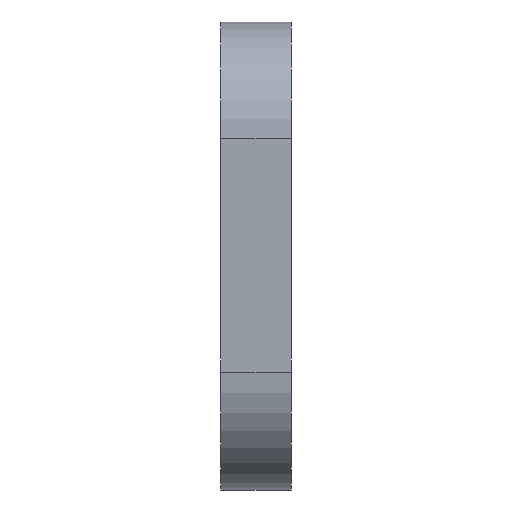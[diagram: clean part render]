
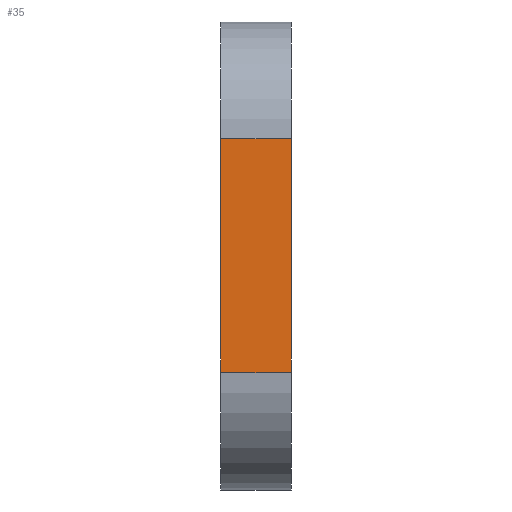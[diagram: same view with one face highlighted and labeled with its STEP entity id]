
A CAD part, left-side view. The second image highlights one B-rep face of the part: STEP entity #35.
In plain terms, the highlighted planar face has unit normal (-1, 0, 0).
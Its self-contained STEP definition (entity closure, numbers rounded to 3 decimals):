
#35 = ADVANCED_FACE('',(#36),#50,.T.);
#36 = FACE_BOUND('',#37,.T.);
#37 = EDGE_LOOP('',(#38,#73,#101,#129));
#38 = ORIENTED_EDGE('',*,*,#39,.T.);
#39 = EDGE_CURVE('',#40,#42,#44,.T.);
#40 = VERTEX_POINT('',#41);
#41 = CARTESIAN_POINT('',(-8.,-14.7,-12.));
#42 = VERTEX_POINT('',#43);
#43 = CARTESIAN_POINT('',(-8.,-15.9,-12.));
#44 = SURFACE_CURVE('',#45,(#49,#61),.PCURVE_S1.);
#45 = LINE('',#46,#47);
#46 = CARTESIAN_POINT('',(-8.,-14.7,-12.));
#47 = VECTOR('',#48,1.);
#48 = DIRECTION('',(0.,-1.,0.));
#49 = PCURVE('',#50,#55);
#50 = PLANE('',#51);
#51 = AXIS2_PLACEMENT_3D('',#52,#53,#54);
#52 = CARTESIAN_POINT('',(-8.,-14.7,-12.));
#53 = DIRECTION('',(-1.,0.,0.));
#54 = DIRECTION('',(0.,0.,1.));
#55 = DEFINITIONAL_REPRESENTATION('',(#56),#60);
#56 = LINE('',#57,#58);
#57 = CARTESIAN_POINT('',(0.,0.));
#58 = VECTOR('',#59,1.);
#59 = DIRECTION('',(0.,-1.));
#60 = ( GEOMETRIC_REPRESENTATION_CONTEXT(2) 
PARAMETRIC_REPRESENTATION_CONTEXT() REPRESENTATION_CONTEXT('2D SPACE',''
  ) );
#61 = PCURVE('',#62,#67);
#62 = CYLINDRICAL_SURFACE('',#63,2.);
#63 = AXIS2_PLACEMENT_3D('',#64,#65,#66);
#64 = CARTESIAN_POINT('',(-6.,-14.7,-12.));
#65 = DIRECTION('',(0.,1.,0.));
#66 = DIRECTION('',(1.,0.,0.));
#67 = DEFINITIONAL_REPRESENTATION('',(#68),#72);
#68 = LINE('',#69,#70);
#69 = CARTESIAN_POINT('',(3.142,0.));
#70 = VECTOR('',#71,1.);
#71 = DIRECTION('',(-0.,-1.));
#72 = ( GEOMETRIC_REPRESENTATION_CONTEXT(2) 
PARAMETRIC_REPRESENTATION_CONTEXT() REPRESENTATION_CONTEXT('2D SPACE',''
  ) );
#73 = ORIENTED_EDGE('',*,*,#74,.T.);
#74 = EDGE_CURVE('',#42,#75,#77,.T.);
#75 = VERTEX_POINT('',#76);
#76 = CARTESIAN_POINT('',(-8.,-15.9,-8.));
#77 = SURFACE_CURVE('',#78,(#82,#89),.PCURVE_S1.);
#78 = LINE('',#79,#80);
#79 = CARTESIAN_POINT('',(-8.,-15.9,-10.));
#80 = VECTOR('',#81,1.);
#81 = DIRECTION('',(0.,0.,1.));
#82 = PCURVE('',#50,#83);
#83 = DEFINITIONAL_REPRESENTATION('',(#84),#88);
#84 = LINE('',#85,#86);
#85 = CARTESIAN_POINT('',(2.,-1.2));
#86 = VECTOR('',#87,1.);
#87 = DIRECTION('',(1.,0.));
#88 = ( GEOMETRIC_REPRESENTATION_CONTEXT(2) 
PARAMETRIC_REPRESENTATION_CONTEXT() REPRESENTATION_CONTEXT('2D SPACE',''
  ) );
#89 = PCURVE('',#90,#95);
#90 = PLANE('',#91);
#91 = AXIS2_PLACEMENT_3D('',#92,#93,#94);
#92 = CARTESIAN_POINT('',(0.,-15.9,-10.));
#93 = DIRECTION('',(0.,-1.,0.));
#94 = DIRECTION('',(1.,0.,0.));
#95 = DEFINITIONAL_REPRESENTATION('',(#96),#100);
#96 = LINE('',#97,#98);
#97 = CARTESIAN_POINT('',(-8.,0.));
#98 = VECTOR('',#99,1.);
#99 = DIRECTION('',(0.,1.));
#100 = ( GEOMETRIC_REPRESENTATION_CONTEXT(2) 
PARAMETRIC_REPRESENTATION_CONTEXT() REPRESENTATION_CONTEXT('2D SPACE',''
  ) );
#101 = ORIENTED_EDGE('',*,*,#102,.F.);
#102 = EDGE_CURVE('',#103,#75,#105,.T.);
#103 = VERTEX_POINT('',#104);
#104 = CARTESIAN_POINT('',(-8.,-14.7,-8.));
#105 = SURFACE_CURVE('',#106,(#110,#117),.PCURVE_S1.);
#106 = LINE('',#107,#108);
#107 = CARTESIAN_POINT('',(-8.,-14.7,-8.));
#108 = VECTOR('',#109,1.);
#109 = DIRECTION('',(0.,-1.,0.));
#110 = PCURVE('',#50,#111);
#111 = DEFINITIONAL_REPRESENTATION('',(#112),#116);
#112 = LINE('',#113,#114);
#113 = CARTESIAN_POINT('',(4.,0.));
#114 = VECTOR('',#115,1.);
#115 = DIRECTION('',(0.,-1.));
#116 = ( GEOMETRIC_REPRESENTATION_CONTEXT(2) 
PARAMETRIC_REPRESENTATION_CONTEXT() REPRESENTATION_CONTEXT('2D SPACE',''
  ) );
#117 = PCURVE('',#118,#123);
#118 = CYLINDRICAL_SURFACE('',#119,2.);
#119 = AXIS2_PLACEMENT_3D('',#120,#121,#122);
#120 = CARTESIAN_POINT('',(-6.,-14.7,-8.));
#121 = DIRECTION('',(0.,1.,0.));
#122 = DIRECTION('',(1.,0.,0.));
#123 = DEFINITIONAL_REPRESENTATION('',(#124),#128);
#124 = LINE('',#125,#126);
#125 = CARTESIAN_POINT('',(3.142,0.));
#126 = VECTOR('',#127,1.);
#127 = DIRECTION('',(-0.,-1.));
#128 = ( GEOMETRIC_REPRESENTATION_CONTEXT(2) 
PARAMETRIC_REPRESENTATION_CONTEXT() REPRESENTATION_CONTEXT('2D SPACE',''
  ) );
#129 = ORIENTED_EDGE('',*,*,#130,.F.);
#130 = EDGE_CURVE('',#40,#103,#131,.T.);
#131 = SURFACE_CURVE('',#132,(#136,#143),.PCURVE_S1.);
#132 = LINE('',#133,#134);
#133 = CARTESIAN_POINT('',(-8.,-14.7,-10.));
#134 = VECTOR('',#135,1.);
#135 = DIRECTION('',(0.,0.,1.));
#136 = PCURVE('',#50,#137);
#137 = DEFINITIONAL_REPRESENTATION('',(#138),#142);
#138 = LINE('',#139,#140);
#139 = CARTESIAN_POINT('',(2.,0.));
#140 = VECTOR('',#141,1.);
#141 = DIRECTION('',(1.,0.));
#142 = ( GEOMETRIC_REPRESENTATION_CONTEXT(2) 
PARAMETRIC_REPRESENTATION_CONTEXT() REPRESENTATION_CONTEXT('2D SPACE',''
  ) );
#143 = PCURVE('',#144,#149);
#144 = PLANE('',#145);
#145 = AXIS2_PLACEMENT_3D('',#146,#147,#148);
#146 = CARTESIAN_POINT('',(0.,-14.7,-10.));
#147 = DIRECTION('',(0.,-1.,0.));
#148 = DIRECTION('',(1.,0.,0.));
#149 = DEFINITIONAL_REPRESENTATION('',(#150),#154);
#150 = LINE('',#151,#152);
#151 = CARTESIAN_POINT('',(-8.,0.));
#152 = VECTOR('',#153,1.);
#153 = DIRECTION('',(0.,1.));
#154 = ( GEOMETRIC_REPRESENTATION_CONTEXT(2) 
PARAMETRIC_REPRESENTATION_CONTEXT() REPRESENTATION_CONTEXT('2D SPACE',''
  ) );
